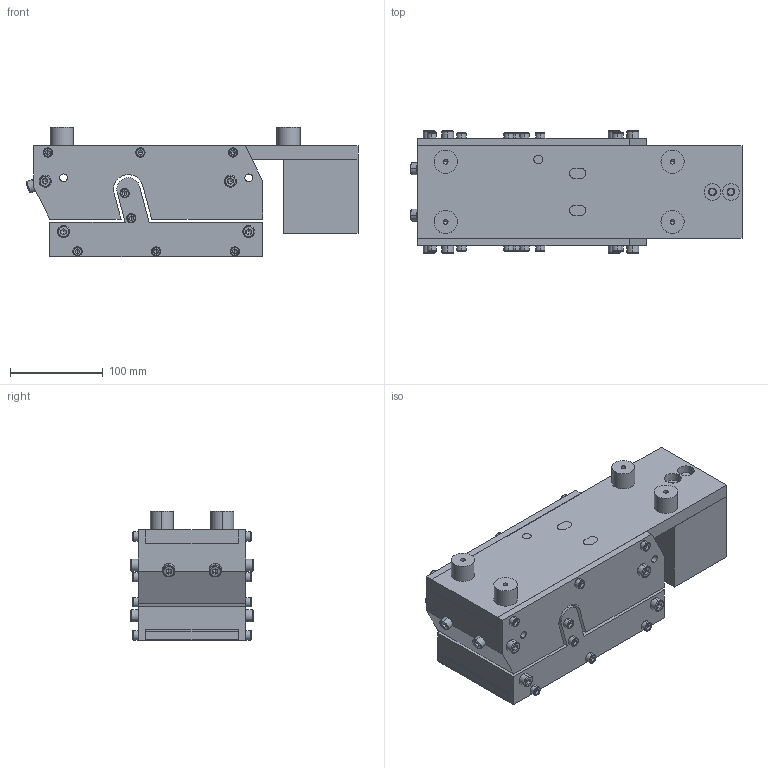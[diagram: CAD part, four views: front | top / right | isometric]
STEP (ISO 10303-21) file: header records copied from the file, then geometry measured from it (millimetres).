
FILE_DESCRIPTION (( 'STEP AP203' ), '1' );
FILE_NAME ('ZX230-003.STEP', '2025-05-19T05:08:36', ( '' ), ( '' ), 'SwSTEP 2.0', 'SolidWorks 2022', '' );
FILE_SCHEMA (( 'CONFIG_CONTROL_DESIGN' ));
Length unit declared in the file: millimetre
Products named in the file (1): ZX230-003
Bounding box: 358.57 x 132 x 140.4 mm (x, y, z)
Volume: 4415360 mm3; surface area: 525539.7 mm2
Topology: 37 solids, 37 shells, 990 faces, 2254 edges, 1363 vertices
Faces by surface type: plane 508, cylinder 300, cone 128, bspline 54
Entity records: 27929 total; most frequent: CARTESIAN_POINT 5506, DIRECTION 4906, ORIENTED_EDGE 4360, EDGE_CURVE 2180, AXIS2_PLACEMENT_3D 1843, VERTEX_POINT 1363, LINE 1220, VECTOR 1220
